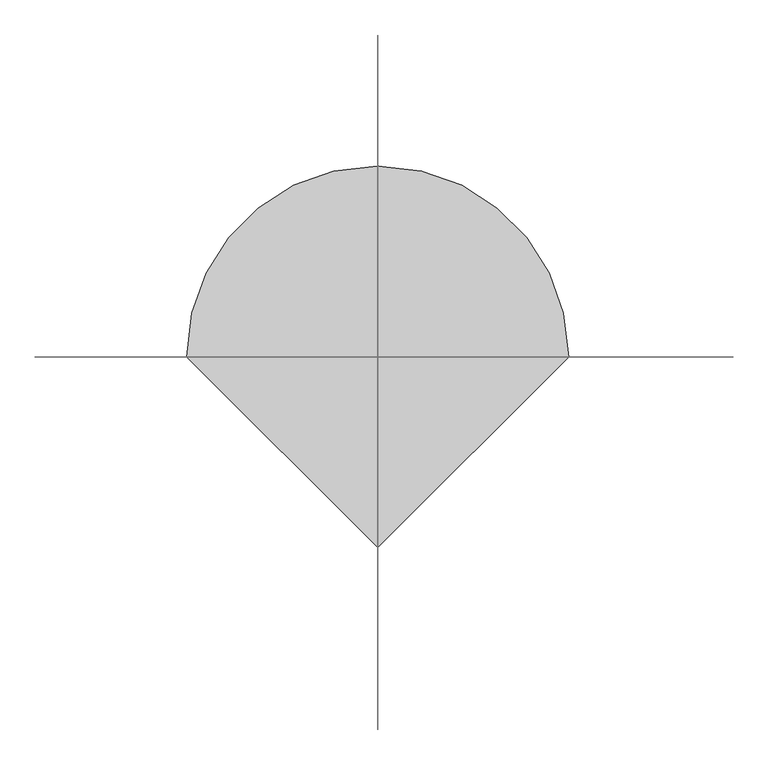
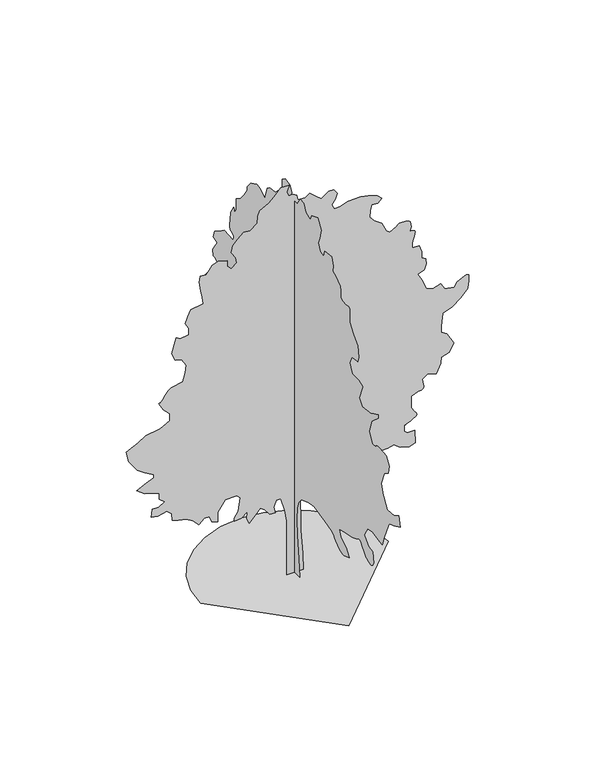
"""IFC4 building model written with IfcOpenShell, lengths in millimetres: geographic element geometry, RPC 树 - 落叶树 : 红枫 - 9 米."""

from ifc_helpers import new_model, si_unit, origin, place, context, project, spatial, triangles, source, transform, mapped, element, save


def geographic_element_35dbb388(model_context):
    return source(origin(), model_context, "Body", "Tessellation", [
        triangles([(5.8e-06, -197.3661507, 0.0129526), (5.8e-06, 197.3841547, 0.0129526), (5.8e-06, 171.0676469, 394.7628227), (5.8e-06, 144.750367, 907.9407286), (5.8e-06, 131.5926036, 1197.4234949), (5.8e-06, 171.0676469, 1342.1660408), (5.8e-06, 223.7014255, 1513.2237682), (5.8e-06, 315.8102654, 1565.8587822), (5.8e-06, 526.342909, 1684.2838211), (5.8e-06, 750.035614, 1736.9163643), (5.8e-06, 1052.6783329, 1776.3914257), (5.8e-06, 1263.2109764, 1776.3914257), (5.8e-06, 1355.318581, 1671.1238686), (5.8e-06, 1315.8435196, 1526.38125), (5.8e-06, 1421.1110767, 1486.9061886), (5.8e-06, 1592.1712749, 1579.016264), (5.8e-06, 1595.2388203, 1567.7362839), (5.8e-06, 1599.8038033, 1556.4587746), (5.8e-06, 1607.3613361, 1545.1812653), (5.8e-06, 1619.4088566, 1533.9012852), (5.8e-06, 1637.4388607, 1522.6237759), (5.8e-06, 1662.9487862, 1511.3436504), (5.8e-06, 1697.4363613, 1500.0661411), (5.8e-06, 1733.4588718, 1490.3212418), (5.8e-06, 1763.2689709, 1483.3386738), (5.8e-06, 1787.8963921, 1478.6611977), (5.8e-06, 1808.3814789, 1475.8212547), (5.8e-06, 1825.7589066, 1474.3636402), (5.8e-06, 1841.0665478, 1473.826173), (5.8e-06, 1855.3364616, 1473.7487068), (5.8e-06, 1881.6540413, 1565.8587822), (5.8e-06, 1868.4965595, 1763.2339439), (5.8e-06, 1947.446537, 1842.1839214), (5.8e-06, 2079.029203, 1855.3415485), (5.8e-06, 2184.2967602, 1750.0738461), (5.8e-06, 2434.3044651, 1671.1238686), (5.8e-06, 2500.1020477, 1473.7487068), (5.8e-06, 2618.5270866, 1486.9061886), (5.8e-06, 2723.7770576, 1644.8087597), (5.8e-06, 2723.7770576, 1776.3914257), (5.8e-06, 2750.102195, 1881.6589828), (5.8e-06, 2658.0020027, 2184.299231), (5.8e-06, 2658.0020027, 2355.3594292), (5.8e-06, 2631.6771561, 2618.5270866), (5.8e-06, 2634.7022621, 2618.6770775), (5.8e-06, 2639.0019997, 2619.7520119), (5.8e-06, 2645.8271645, 2622.677124), (5.8e-06, 2656.4520973, 2628.3520683), (5.8e-06, 2672.1523018, 2637.702079), (5.8e-06, 2694.1771202, 2651.6770981), (5.8e-06, 2723.7770576, 2671.1520721), (5.8e-06, 2752.6273315, 2695.2520546), (5.8e-06, 2772.5022812, 2722.1021599), (5.8e-06, 2784.9021057, 2751.2521248), (5.8e-06, 2791.3022964, 2782.2522675), (5.8e-06, 2793.227179, 2814.6273262), (5.8e-06, 2792.1522446, 2847.9273285), (5.8e-06, 2789.5771111, 2881.7023018), (5.8e-06, 2868.5272339, 3013.2774101), (5.8e-06, 2899.4523811, 2993.9524269), (5.8e-06, 2929.8022728, 2977.0272972), (5.8e-06, 2958.9775269, 2964.9524529), (5.8e-06, 2986.4523033, 2960.1024582), (5.8e-06, 3011.6275108, 2964.9524529), (5.8e-06, 3033.902314, 2981.8522934), (5.8e-06, 3052.7523262, 3013.2774101), (5.8e-06, 3184.3274345, 3329.0776108), (5.8e-06, 3144.8525185, 3460.6527191), (5.8e-06, 2894.8523712, 3447.5026497), (5.8e-06, 2750.102195, 3460.6527191), (5.8e-06, 2763.2522644, 3592.2528259), (5.8e-06, 2797.1272316, 3612.2280602), (5.8e-06, 2831.2521835, 3633.7029121), (5.8e-06, 2865.8024002, 3658.1778717), (5.8e-06, 2901.0522835, 3687.1528473), (5.8e-06, 2937.227401, 3722.1030396), (5.8e-06, 2974.5774467, 3764.5280663), (5.8e-06, 3013.2774101, 3815.9281265), (5.8e-06, 3049.3025368, 3866.5782326), (5.8e-06, 3079.102462, 3906.8530998), (5.8e-06, 3103.7274124, 3938.5032028), (5.8e-06, 3124.2276146, 3963.2531456), (5.8e-06, 3141.6024261, 3982.8031151), (5.8e-06, 3156.902655, 3998.9282936), (5.8e-06, 3171.1776558, 4013.3032883), (5.8e-06, 3394.8776642, 4460.7035957), (5.8e-06, 3460.6527191, 4750.1789497), (5.8e-06, 3315.9275414, 4908.0789047), (5.8e-06, 3250.1274879, 4921.2292648), (5.8e-06, 3105.3776024, 5105.4540665), (5.8e-06, 3013.2774101, 5171.2541199), (5.8e-06, 2976.8773064, 5188.2792435), (5.8e-06, 2941.9524033, 5206.0043243), (5.8e-06, 2910.027317, 5225.1043213), (5.8e-06, 2882.6022469, 5246.2791916), (5.8e-06, 2861.1773918, 5270.2294739), (5.8e-06, 2847.2023727, 5297.6045471), (5.8e-06, 2842.2023872, 5329.1543655), (5.8e-06, 2849.1272552, 5359.9042328), (5.8e-06, 2868.4522385, 5385.1544357), (5.8e-06, 2898.1524605, 5405.8043381), (5.8e-06, 2936.1274681, 5422.7544662), (5.8e-06, 2980.3273865, 5436.9541809), (5.8e-06, 3028.6523438, 5449.3045898), (5.8e-06, 3079.0524651, 5460.7294739), (5.8e-06, 3092.227533, 5605.4793594), (5.8e-06, 3026.4274796, 5710.7293304), (5.8e-06, 2921.1522194, 5855.4797974), (5.8e-06, 3079.0524651, 5894.9547134), (5.8e-06, 3026.4274796, 6052.8549591), (5.8e-06, 2855.3771645, 6158.1299286), (5.8e-06, 2658.0020027, 6302.8548157), (5.8e-06, 2486.9394791, 6289.7050369), (5.8e-06, 2329.0393787, 6276.5552582), (5.8e-06, 2302.7217991, 6381.8052292), (5.8e-06, 2381.6719219, 6434.4549225), (5.8e-06, 2395.6744102, 6437.4803192), (5.8e-06, 2409.1019337, 6441.7800568), (5.8e-06, 2421.3769112, 6448.6052216), (5.8e-06, 2431.9269939, 6459.2301544), (5.8e-06, 2440.174601, 6474.9303589), (5.8e-06, 2445.5443314, 6496.9551773), (5.8e-06, 2447.464563, 6526.5551147), (5.8e-06, 2446.3120171, 6563.455188), (5.8e-06, 2443.0918648, 6605.8805054), (5.8e-06, 2438.1420216, 6652.9305405), (5.8e-06, 2431.81203, 6703.6303528), (5.8e-06, 2424.4469273, 6757.1055771), (5.8e-06, 2416.3894249, 6812.4306885), (5.8e-06, 2407.9895016, 6868.6807434), (5.8e-06, 2302.7217991, 7052.905545), (5.8e-06, 2263.246883, 6947.6305756), (5.8e-06, 2197.4542419, 7066.0559052), (5.8e-06, 2197.4542419, 7316.0557617), (5.8e-06, 2026.3966599, 7421.3307312), (5.8e-06, 1907.9714756, 7579.2309769), (5.8e-06, 1789.5464367, 7750.2810013), (5.8e-06, 1789.5464367, 7842.406192), (5.8e-06, 1657.9612999, 8000.3064377), (5.8e-06, 1421.1110767, 8118.7317673), (5.8e-06, 1289.5285561, 8092.4066299), (5.8e-06, 1118.4684305, 7973.9813004), (5.8e-06, 1026.3608259, 8263.4566544), (5.8e-06, 934.2507505, 8329.2567078), (5.8e-06, 723.718107, 8355.5818451), (5.8e-06, 565.8179704, 8513.4820908), (5.8e-06, 460.552884, 8631.906839), (5.8e-06, 460.552884, 8816.1072235), (5.8e-06, 342.1277724, 8895.0570557), (5.8e-06, 184.2254012, 8855.5821396), (5.8e-06, 92.1178238, 8737.15681), (5.8e-06, 105.8898393, 8706.3569458), (5.8e-06, 117.7053427, 8676.8070053), (5.8e-06, 125.607849, 8649.8069092), (5.8e-06, 127.6411006, 8626.6071625), (5.8e-06, 121.8483492, 8608.4571075), (5.8e-06, 106.2730826, 8596.6316666), (5.8e-06, 78.9590612, 8592.4319229), (5.8e-06, -105.2585824, 8592.4319229), (5.8e-06, -223.6836758, 8763.4819473), (5.8e-06, -355.2677771, 8750.3321686), (5.8e-06, -421.0578383, 8592.4319229), (5.8e-06, -592.1179639, 8513.4820908), (5.8e-06, -657.9080252, 8645.0571991), (5.8e-06, -881.6006939, 8737.15681), (5.8e-06, -1026.3433125, 8539.7816483), (5.8e-06, -960.5507441, 8316.106929), (5.8e-06, -907.9182009, 8171.3564621), (5.8e-06, -973.7107693, 8013.4562164), (5.8e-06, -1105.2933626, 7987.1316605), (5.8e-06, -1157.9259058, 8131.881546), (5.8e-06, -1421.0936359, 8158.2066833), (5.8e-06, -1473.7286499, 7973.9813004), (5.8e-06, -1447.4112156, 7842.406192), (5.8e-06, -1565.8362545, 7802.9312759), (5.8e-06, -1736.8938366, 7671.3311691), (5.8e-06, -1750.0539345, 7579.2309769), (5.8e-06, -1750.0539345, 7421.3307312), (5.8e-06, -1815.8439594, 7381.8558151), (5.8e-06, -1973.7440598, 7381.8558151), (5.8e-06, -2004.5116585, 7387.106076), (5.8e-06, -2033.7816742, 7390.055896), (5.8e-06, -2060.05914, 7388.4059967), (5.8e-06, -2081.8492344, 7379.8559372), (5.8e-06, -2097.654229, 7362.1058578), (5.8e-06, -2105.9791569, 7332.8309006), (5.8e-06, -2105.3291965, 7289.7556229), (5.8e-06, -2100.4566742, 7242.4306046), (5.8e-06, -2096.9666256, 7201.3557861), (5.8e-06, -2094.6266521, 7165.4556519), (5.8e-06, -2093.2066807, 7133.6808472), (5.8e-06, -2092.476638, 7105.0308517), (5.8e-06, -2092.2092125, 7078.4307312), (5.8e-06, -2092.1717148, 7052.905545), (5.8e-06, -2223.7542355, 6868.6807434), (5.8e-06, -2394.8119629, 6697.6301376), (5.8e-06, -2434.2870243, 6447.6052826), (5.8e-06, -2407.9719154, 6329.179953), (5.8e-06, -2276.3867786, 6316.0301743), (5.8e-06, -2171.1216923, 6289.7050369), (5.8e-06, -2092.1717148, 6118.6550125), (5.8e-06, -2197.4368011, 5921.2798508), (5.8e-06, -2434.2870243, 5921.2798508), (5.8e-06, -2592.1769508, 5868.6295761), (5.8e-06, -2460.6044586, 5526.5295273), (5.8e-06, -2579.0271721, 5394.9294205), (5.8e-06, -2907.9774422, 5434.4043365), (5.8e-06, -3000.1023422, 5487.0546112), (5.8e-06, -3184.3024361, 5579.1542221), (5.8e-06, -3171.1526573, 5487.0546112), (5.8e-06, -2934.3022888, 5276.5040909), (5.8e-06, -2842.2023872, 4987.0293182), (5.8e-06, -2947.4523582, 4763.3287285), (5.8e-06, -3092.2025345, 4776.5037964), (5.8e-06, -3095.3776314, 4790.453817), (5.8e-06, -3100.752594, 4803.6288849), (5.8e-06, -3110.5025803, 4815.1787613), (5.8e-06, -3126.8024574, 4824.3037857), (5.8e-06, -3151.8526726, 4830.204007), (5.8e-06, -3187.8525101, 4832.0788925), (5.8e-06, -3236.9527107, 4829.1287819), (5.8e-06, -3473.8027885, 4802.8039352), (5.8e-06, -3592.2278275, 4631.7536201), (5.8e-06, -3552.7529114, 4447.5285278), (5.8e-06, -3408.0027351, 4342.2785568), (5.8e-06, -3289.5776962, 4052.7782043), (5.8e-06, -3342.2026817, 3868.5781105), (5.8e-06, -3394.8526657, 3802.7780571), (5.8e-06, -3526.427774, 3579.077758), (5.8e-06, -3789.6029892, 3605.4028954), (5.8e-06, -3960.6533043, 3710.6778648), (5.8e-06, -4013.2782898, 3473.827787), (5.8e-06, -3763.2781425, 3355.4027481), (5.8e-06, -3592.2278275, 3302.7527641), (5.8e-06, -3473.8027885, 3039.6025475), (5.8e-06, -3408.0027351, 2881.7023018), (5.8e-06, -3329.0526123, 2658.0020027), (5.8e-06, -3184.3024361, 2684.32714), (5.8e-06, -2960.6274261, 2723.8020561), (5.8e-06, -2776.4023338, 2684.32714), (5.8e-06, -2644.8272255, 2473.7844681), (5.8e-06, -2815.8772499, 2302.726886), (5.8e-06, -2973.7774956, 2276.4093063), (5.8e-06, -3000.1023422, 2026.3991306), (5.8e-06, -2988.6274612, 2001.2715946), (5.8e-06, -2976.0023598, 1977.6416416), (5.8e-06, -2961.0773987, 1957.0016224), (5.8e-06, -2942.7023575, 1940.8515907), (5.8e-06, -2919.7273064, 1930.6865135), (5.8e-06, -2891.0023155, 1928.001503), (5.8e-06, -2855.352166, 1934.291526), (5.8e-06, -2818.1774002, 1946.7215813), (5.8e-06, -2785.1523811, 1961.2215683), (5.8e-06, -2755.5771515, 1977.4490662), (5.8e-06, -2728.7523354, 1995.0591831), (5.8e-06, -2704.0271004, 2013.7016499), (5.8e-06, -2680.6520737, 2033.0366615), (5.8e-06, -2657.9770042, 2052.7167103), (5.8e-06, -2565.8771027, 2157.9842674), (5.8e-06, -2548.8019821, 2185.796814), (5.8e-06, -2530.801918, 2211.3067394), (5.8e-06, -2510.9769653, 2232.2143295), (5.8e-06, -2488.3795074, 2246.2168179), (5.8e-06, -2462.0994255, 2251.011874), (5.8e-06, -2431.219479, 2244.2993477), (5.8e-06, -2394.8119629, 2223.7767632), (5.8e-06, -2349.1993401, 2197.1142918), (5.8e-06, -2292.5368103, 2173.2142971), (5.8e-06, -2226.6693192, 2151.6167782), (5.8e-06, -2153.4342545, 2131.8592632), (5.8e-06, -2074.6767071, 2113.484222), (5.8e-06, -1992.236681, 2096.0291828), (5.8e-06, -1907.9540348, 2079.0341446), (5.8e-06, -1697.4189205, 2026.3991306), (5.8e-06, -1763.2114162, 1894.8164646), (5.8e-06, -1973.7440598, 1763.2339439), (5.8e-06, -2079.0116169, 1592.1737457), (5.8e-06, -1894.7940823, 1526.38125), (5.8e-06, -1869.3215092, 1526.5736801), (5.8e-06, -1843.2739712, 1527.9161854), (5.8e-06, -1816.0740326, 1531.5611664), (5.8e-06, -1787.1489086, 1538.6586983), (5.8e-06, -1755.9214542, 1550.3587109), (5.8e-06, -1721.8164139, 1567.8137501), (5.8e-06, -1684.2612934, 1592.1737457), (5.8e-06, -1645.5537724, 1620.7538326), (5.8e-06, -1608.2262543, 1650.0238483), (5.8e-06, -1572.0512821, 1679.8712997), (5.8e-06, -1536.796312, 1710.1764267), (5.8e-06, -1502.2312706, 1740.8289162), (5.8e-06, -1468.1262302, 1771.7114788), (5.8e-06, -1434.2511177, 1802.7090054), (5.8e-06, -1171.085931, 1881.6589828), (5.8e-06, -960.5507441, 1921.1340443), (5.8e-06, -750.0181005, 1973.7665874), (5.8e-06, -539.4829499, 1934.291526), (5.8e-06, -249.9999474, 1829.0239689), (5.8e-06, -171.0498791, 1723.7588825), (5.8e-06, -105.2585824, 1539.5412025), (5.8e-06, -78.9410663, 1276.3735451), (5.8e-06, -105.2585824, 921.0982103), (5.8e-06, -157.8911256, 407.9228116), (-2052.3641155, 0.0, 0.0), (-1998.1066715, 470.2653726, 0.0), (-1843.5815105, 902.1307634, 0.0), (-1601.1612785, 1283.2184761, 0.0), (-1283.2184761, 1601.1612785, 0.0), (-902.1307634, 1843.5815105, 0.0), (-470.2653726, 1998.1066715, 0.0), (8.97e-05, 2052.3641155, 0.0), (470.2653726, 1998.1066715, 0.0), (902.1307634, 1843.5815105, 0.0), (1283.2184761, 1601.1612785, 0.0), (1601.1612785, 1283.2184761, 0.0), (1843.5815105, 902.1307634, 0.0), (1998.1066715, 470.2653726, 0.0), (2052.3641155, -0.0001799, 0.0), (-0.0002691, -2052.3641155, 0.0), (196.7396627, -0.0002249, 0.0051811), (-167.0323917, -0.0002249, 0.0051811), (-167.0323917, -0.0001889, 673.6580086), (-167.0323917, -0.0001619, 1023.9583563), (-167.0323917, -0.0001529, 1252.9985184), (-207.4516724, -0.0001349, 1508.988707), (-301.7627399, -0.0001169, 1805.3940159), (-396.0753153, -0.0001169, 1805.3940159), (-449.967847, -0.0001259, 1657.1912888), (-423.0203276, -0.0001349, 1522.4612858), (-544.2779334, -0.0001349, 1535.9337193), (-652.0630331, -0.0001259, 1670.6638676), (-746.3755903, -0.0001259, 1738.0289417), (-854.1581829, -0.0001259, 1616.7713722), (-988.8883312, -0.0001349, 1482.0412239), (-1042.7808266, -0.0001349, 1603.2987934), (-1029.3083204, -0.0001259, 1764.9764248), (-1164.0384687, -0.0001259, 1657.1912888), (-1312.243594, -0.0001259, 1643.7188553), (-1312.243594, -0.0001259, 1711.0839294), (-1231.4034702, -0.0001169, 1845.8139324), (-1190.9859518, -9.89e-05, 2142.2217121), (-1258.3509533, -9.89e-05, 2209.5867863), (-1514.3386711, -9.89e-05, 2209.5867863), (-1676.0138317, -0.0001079, 1980.5440807), (-1676.0138317, -0.0001169, 1886.2339943), (-1676.0138317, -0.0001259, 1751.503846), (-1810.7464508, -0.0001169, 1805.3940159), (-1864.6389462, -0.0001079, 1940.126635), (-1972.4216114, -0.0001079, 1940.126635), (-2093.6791809, -0.0001169, 1832.3414989), (-2228.4093292, -0.0001079, 1967.0716473), (-2363.1419483, -0.0001079, 2047.9091549), (-2538.3020416, -9.89e-05, 2088.3292168), (-2673.0272484, -9.89e-05, 2142.2217121), (-2686.502298, -8.99e-05, 2290.4242939), (-2794.2771149, -8.1e-05, 2384.7369965), (-2996.3772789, -8.99e-05, 2344.3169346), (-3131.1024857, -8.1e-05, 2371.2644176), (-3117.6274361, -7.2e-05, 2546.4021286), (-2969.4274704, -7.2e-05, 2546.4021286), (-2834.7022636, -7.2e-05, 2627.2521355), (-2955.9524208, -6.3e-05, 2721.5521935), (-2955.9524208, -5.4e-05, 2856.3023987), (-3090.6776276, -5.4e-05, 2910.1773079), (-3279.302742, -5.4e-05, 2964.0775063), (-3454.4528069, -4.5e-05, 3098.8024223), (-3238.8775932, -3.6e-05, 3193.1274788), (-3077.202578, -3.6e-05, 3260.4777283), (-3077.202578, -2.7e-05, 3327.8526855), (-3279.302742, -1.8e-05, 3449.1028427), (-3440.9777573, -1.8e-05, 3570.3779984), (-3629.6028717, 0.0, 3826.3530716), (-3683.5030701, 1.8e-05, 4068.8783844), (-3575.7279625, 1.8e-05, 4122.7532936), (-3427.5027077, 2.7e-05, 4190.1282509), (-3252.3526428, 2.7e-05, 4297.9033585), (-2942.4773712, 3.6e-05, 4351.8035568), (-2726.9021576, 3.6e-05, 4459.5786644), (-2726.9021576, 4.5e-05, 4621.2536797), (-2875.1274124, 5.4e-05, 4769.4789345), (-2969.4274704, 7.2e-05, 4944.6289993), (-2960.6274261, 7.2e-05, 4942.0541565), (-2951.0024323, 7.2e-05, 4941.5041901), (-2939.7272484, 7.2e-05, 4944.978978), (-2925.9775063, 7.2e-05, 4954.4289825), (-2908.9273842, 7.2e-05, 4971.9040787), (-2887.7772217, 7.2e-05, 4999.4041443), (-2861.6523628, 7.2e-05, 5038.9290573), (-2833.9523094, 7.2e-05, 5080.8038269), (-2808.3771263, 8.1e-05, 5114.904071), (-2784.5771255, 8.1e-05, 5142.5041306), (-2762.17733, 8.1e-05, 5164.9289246), (-2740.8521782, 8.1e-05, 5183.4789551), (-2720.2272743, 8.1e-05, 5199.4291443), (-2699.9770569, 8.1e-05, 5214.0794128), (-2443.9796013, 8.99e-05, 5267.9790298), (-2390.0869606, 9.89e-05, 5456.6041443), (-2363.1419483, 0.0001079, 5618.2797409), (-2470.9270844, 0.0001169, 5779.9547562), (-2605.6520004, 0.0001169, 5820.3546158), (-2686.502298, 0.0001349, 5995.5049713), (-2632.6020996, 0.0001439, 6184.1300858), (-2592.1769508, 0.0001529, 6332.3303421), (-2497.8719513, 0.0001439, 6278.4551422), (-2309.2493076, 0.0001529, 6305.4052414), (-2309.2493076, 0.0001619, 6453.6054977), (-2390.0869606, 0.0001619, 6588.3304138), (-2336.1943199, 0.0001709, 6736.5306702), (-2268.8293911, 0.0001799, 6871.2555862), (-1999.3690945, 0.0001889, 6911.6804443), (-2012.8416733, 0.0001979, 7073.3554596), (-2053.2615898, 0.0002069, 7221.5557159), (-2080.2067474, 0.0002159, 7437.1309296), (-2066.7341686, 0.0002249, 7571.8558456), (-1932.0040203, 0.0002249, 7558.3810867), (-1864.6389462, 0.0002249, 7639.2313843), (-1797.2740173, 0.0002339, 7733.5314423), (-1662.5413982, 0.0002339, 7773.9563004), (-1473.9187546, 0.0002339, 7720.056102), (-1473.9187546, 0.0002249, 7598.8059448), (-1379.6086681, 0.0002249, 7504.5058868), (-1258.3509533, 0.0002249, 7598.8059448), (-1285.2959656, 0.0002339, 7733.5314423), (-1379.6086681, 0.0002429, 7881.7311172), (-1352.6610397, 0.0002519, 8029.9563721), (-1244.876049, 0.0002609, 8137.7317703), (-1110.1459007, 0.0002698, 8258.9819275), (-961.9432463, 0.0002609, 8245.5065872), (-813.7406645, 0.0002698, 8366.7817429), (-800.2656149, 0.0002788, 8514.9819992), (-759.8480965, 0.0002878, 8636.2321564), (-557.7504395, 0.0002968, 8730.5572128), (-436.49287, 0.0002968, 8838.3320297), (-301.7627399, 0.0003058, 9000.007045), (-113.1403415, 0.0003058, 9000.007045), (-167.0323917, 0.0002968, 8851.80737), (-126.6133563, 0.0002968, 8757.4823135), (-32.3020254, 0.0002968, 8757.4823135), (48.5362907, 0.0002878, 8703.6071136), (75.4823112, 0.0002878, 8595.8067169), (237.1586891, 0.0002878, 8582.331958), (331.4702834, 0.0002878, 8649.7069153), (466.2003591, 0.0002788, 8541.9320984), (587.4579649, 0.0002788, 8434.1317017), (749.1355963, 0.0002788, 8555.4068573), (856.9206596, 0.0002788, 8555.4068573), (937.7582399, 0.0002788, 8447.6070419), (897.3382507, 0.0002698, 8312.8815445), (816.5006704, 0.0002609, 8218.5814865), (870.3932384, 0.0002609, 8110.7816711), (991.650808, 0.0002609, 8110.7816711), (1180.2734516, 0.0002609, 8178.1566284), (1449.7336029, 0.0002609, 8178.1566284), (1611.4112343, 0.0002609, 8151.2065292), (1813.5064568, 0.0002519, 8083.831572), (1907.819014, 0.0002519, 7989.531514), (1826.9790356, 0.0002429, 7895.2064575), (1692.2488873, 0.0002429, 7908.6812164), (1665.303875, 0.0002339, 7787.4310593), (1651.8288254, 0.0002249, 7639.2313843), (1746.1413826, 0.0002249, 7517.9812271), (1907.819014, 0.0002159, 7410.1808304), (2015.6016792, 0.0001979, 7194.6056168), (2082.9667534, 0.0001979, 7140.7309982), (2244.6443848, 0.0002069, 7221.5557159), (2247.8267487, 0.0002069, 7233.0305969), (2252.7742664, 0.0002069, 7244.0310883), (2261.259359, 0.0002069, 7254.0810562), (2275.0468895, 0.0002069, 7262.7311096), (2295.9043373, 0.0002069, 7269.4806976), (2325.5993271, 0.0002069, 7273.8810104), (2365.9019543, 0.0002069, 7275.4559143), (2407.7743984, 0.0002069, 7273.8810104), (2441.8695557, 0.0002069, 7269.4806976), (2469.4844398, 0.0002069, 7262.7311096), (2491.9121407, 0.0002069, 7254.0810562), (2510.4519974, 0.0002069, 7244.0310883), (2526.4018959, 0.0002069, 7233.0305969), (2541.0521645, 0.0002069, 7221.5557159), (2554.5269234, 0.0001979, 7100.3055588), (2527.5771149, 0.0001889, 7006.0055008), (2558.951944, 0.0001889, 7005.5555283), (2588.1021996, 0.0001889, 7002.5307129), (2612.7771469, 0.0001889, 6994.330632), (2630.7272141, 0.0001889, 6978.3304459), (2639.7272461, 0.0001889, 6951.9808914), (2637.5270897, 0.0001889, 6912.6553848), (2621.9021713, 0.0001799, 6857.7808273), (2602.3272034, 0.0001799, 6799.7802979), (2589.127137, 0.0001799, 6751.6553284), (2581.2270378, 0.0001709, 6711.7804367), (2577.5769699, 0.0001709, 6678.5051422), (2577.1019989, 0.0001709, 6650.2051254), (2578.7521889, 0.0001709, 6625.1804901), (2581.4770226, 0.0001709, 6601.8051727), (2729.6772789, 0.0001709, 6601.8051727), (2783.5771866, 0.0001529, 6440.1301575), (2783.5771866, 0.0001529, 6305.4052414), (2877.8772446, 0.0001439, 6251.505043), (2891.3522942, 0.0001349, 6130.2548859), (2837.4523865, 0.0001349, 6008.9797302), (2702.7271797, 0.0001259, 5955.1045303), (2797.0522362, 0.0001169, 5779.9547562), (2891.3522942, 0.0001079, 5564.3795425), (3026.0775009, 9.89e-05, 5497.0045853), (3201.2275658, 0.0001079, 5550.9042023), (3295.5526222, 9.89e-05, 5402.7045273), (3497.6277878, 8.99e-05, 5375.7544281), (3565.0027451, 9.89e-05, 5470.0544861), (3619.4779083, 9.89e-05, 5501.3043228), (3671.7279167, 9.89e-05, 5529.3293564), (3719.5029076, 0.0001079, 5551.0291946), (3760.5280197, 0.0001079, 5563.1546173), (3792.6280952, 0.0001079, 5562.5796524), (3813.5279823, 0.0001079, 5546.0794968), (3821.0031075, 9.89e-05, 5510.4793442), (3820.2031563, 9.89e-05, 5465.8541611), (3818.0029999, 9.89e-05, 5424.0793854), (3814.6282059, 8.99e-05, 5384.6294678), (3810.3031792, 8.99e-05, 5347.0794342), (3805.2781952, 8.99e-05, 5310.9543137), (3799.7779495, 8.99e-05, 5275.7541367), (3794.0530083, 8.99e-05, 5241.029512), (3645.8530426, 7.2e-05, 5079.3539154), (3457.2279282, 6.3e-05, 4931.1542404), (3241.6527145, 6.3e-05, 4863.7789925), (3214.7026154, 4.5e-05, 4567.3787704), (3214.7026154, 3.6e-05, 4432.6285652), (3335.9527725, 3.6e-05, 4351.8035568), (3484.1777367, 1.8e-05, 4095.8031944), (3389.8526802, 9e-06, 3907.2030785), (3214.7026154, 0.0, 3853.3031708), (3201.2275658, -9e-06, 3718.577964), (3106.9275078, -1.8e-05, 3503.0027504), (2918.3023933, -1.8e-05, 3570.3779984), (2801.5522522, -1.8e-05, 3481.1779198), (2800.6773056, -1.8e-05, 3482.6028328), (2800.3023285, -1.8e-05, 3481.8278801), (2800.9522888, -1.8e-05, 3476.6779037), (2803.1271561, -1.8e-05, 3464.9277489), (2807.3521889, -1.8e-05, 3444.4028389), (2814.1523552, -2.7e-05, 3412.9277252), (2823.9773369, -2.7e-05, 3368.2778343), (2830.0272583, -2.7e-05, 3322.9776924), (2826.1772026, -2.7e-05, 3289.7026886), (2814.0773598, -3.6e-05, 3266.4526543), (2795.4023369, -3.6e-05, 3251.202713), (2771.752327, -3.6e-05, 3241.9776947), (2744.8022278, -3.6e-05, 3236.7527229), (2716.2022293, -3.6e-05, 3233.5276291), (2554.5269234, -3.6e-05, 3179.6524292), (2554.5269234, -5.4e-05, 2910.1773079), (2635.3522224, -6.3e-05, 2788.9271507), (2655.0521828, -6.3e-05, 2771.5273407), (2671.5520477, -6.3e-05, 2753.652269), (2681.6773018, -6.3e-05, 2734.8272552), (2682.2522667, -6.3e-05, 2714.602327), (2670.1271347, -6.3e-05, 2692.5022224), (2642.0771027, -7.2e-05, 2668.0272629), (2594.9520721, -7.2e-05, 2640.7271851), (2543.4770164, -7.2e-05, 2615.3769882), (2503.35214, -7.2e-05, 2596.4269821), (2472.6243645, -7.2e-05, 2582.7519447), (2449.4496162, -7.2e-05, 2573.3269386), (2431.9319355, -7.2e-05, 2567.0770294), (2418.1845188, -7.2e-05, 2562.9519905), (2406.3218708, -7.2e-05, 2559.8771782), (2406.3218708, -8.1e-05, 2425.156913), (2473.6870903, -8.99e-05, 2357.7893681), (2635.3522224, -8.99e-05, 2357.7893681), (2648.827272, -9.89e-05, 2074.856638), (2514.1020653, -0.0001079, 2020.9641426), (2312.0093136, -9.89e-05, 2088.3292168), (2177.2793106, -9.89e-05, 2182.641774), (2042.5491623, -9.89e-05, 2155.6942909), (1800.0340233, -9.89e-05, 2142.2217121), (1651.8288254, -9.89e-05, 2101.8016502), (1638.3563919, -0.0001169, 1913.1790066), (1490.1536648, -0.0001169, 1899.7065731), (1301.5310211, -0.0001169, 1913.1790066), (1220.6910427, -0.0001169, 1791.9214371), (937.7582399, -0.0001259, 1751.503846), (722.1881132, -0.0001169, 1805.3940159), (722.1881132, -0.0001349, 1589.8262146), (547.0404465, -0.0001349, 1603.2987934), (493.1479148, -0.0001259, 1711.0839294), (398.8353212, -0.0001259, 1670.6638676), (291.0502397, -0.0001259, 1670.6638676), (250.6327031, -0.0001169, 1791.9214371), (142.8473672, -0.0001259, 1670.6638676), (129.3743524, -0.0001349, 1522.4612858), (142.8473672, -0.0001529, 1293.4185802), (142.8473672, -0.0001709, 916.1732203), (183.2666479, -0.0002069, 377.2503016)], [[131, 130, 132], [209, 208, 210], [210, 208, 211], [208, 207, 211], [231, 230, 232], [232, 230, 233], [277, 276, 278], [230, 229, 233], [233, 229, 234], [1, 302, 2], [2, 302, 3], [3, 302, 4], [302, 301, 4], [4, 301, 5], [301, 300, 5], [5, 300, 6], [300, 299, 6], [6, 299, 7], [109, 108, 110], [204, 203, 205], [207, 206, 211], [211, 206, 212], [110, 108, 111], [203, 202, 205], [14, 13, 15], [15, 13, 16], [237, 236, 238], [172, 171, 173], [171, 170, 173], [173, 170, 174], [37, 36, 38], [38, 36, 39], [39, 36, 40], [276, 275, 278], [278, 275, 279], [279, 275, 280], [280, 275, 281], [281, 275, 282], [282, 275, 283], [283, 275, 284], [284, 275, 285], [285, 275, 286], [286, 275, 287], [287, 275, 288], [288, 275, 289], [289, 275, 290], [275, 274, 290], [290, 274, 291], [291, 274, 292], [68, 67, 69], [67, 66, 69], [165, 164, 166], [166, 164, 167], [164, 163, 167], [167, 163, 168], [243, 242, 244], [30, 29, 31], [105, 104, 106], [198, 197, 199], [29, 28, 31], [299, 298, 7], [69, 66, 70], [66, 65, 70], [65, 64, 70], [64, 63, 70], [63, 62, 70], [62, 61, 70], [61, 60, 70], [60, 59, 70], [28, 27, 31], [151, 150, 152], [161, 160, 162], [160, 159, 162], [197, 196, 199], [196, 195, 199], [199, 195, 200], [27, 26, 31], [134, 133, 135], [244, 242, 245], [245, 242, 246], [246, 242, 247], [247, 242, 248], [248, 242, 249], [249, 242, 250], [250, 242, 251], [251, 242, 252], [252, 242, 253], [253, 242, 254], [254, 242, 255], [255, 242, 256], [256, 242, 257], [257, 242, 258], [258, 242, 259], [242, 241, 259], [259, 241, 260], [260, 241, 261], [261, 241, 262], [262, 241, 263], [263, 241, 264], [7, 298, 8], [292, 274, 293], [148, 147, 149], [149, 147, 150], [150, 147, 152], [152, 147, 153], [153, 147, 154], [154, 147, 155], [155, 147, 156], [40, 36, 41], [41, 36, 42], [36, 35, 42], [35, 34, 42], [42, 34, 43], [87, 86, 88], [88, 86, 89], [43, 34, 44], [106, 104, 107], [104, 103, 107], [103, 102, 107], [26, 25, 31], [31, 25, 32], [25, 24, 32], [24, 23, 32], [23, 22, 32], [22, 21, 32], [21, 20, 32], [20, 19, 32], [19, 18, 32], [18, 17, 32], [17, 16, 32], [16, 13, 32], [13, 12, 32], [107, 102, 108], [102, 101, 108], [130, 129, 132], [147, 146, 156], [101, 100, 108], [238, 236, 239], [156, 146, 157], [222, 221, 223], [223, 221, 224], [224, 221, 225], [221, 220, 225], [220, 219, 225], [219, 218, 225], [218, 217, 225], [217, 216, 225], [216, 215, 225], [215, 214, 225], [214, 213, 225], [225, 213, 226], [34, 33, 44], [236, 235, 239], [8, 298, 9], [298, 297, 9], [32, 12, 33], [59, 58, 70], [176, 175, 177], [86, 85, 89], [89, 85, 90], [90, 85, 91], [91, 85, 92], [85, 84, 92], [92, 84, 93], [84, 83, 93], [83, 82, 93], [93, 82, 94], [82, 81, 94], [81, 80, 94], [94, 80, 95], [80, 79, 95], [33, 12, 44], [79, 78, 95], [78, 77, 95], [77, 76, 95], [76, 75, 95], [75, 74, 95], [74, 73, 95], [73, 72, 95], [72, 71, 95], [95, 71, 96], [111, 108, 112], [112, 108, 113], [108, 100, 113], [113, 100, 114], [100, 99, 114], [99, 98, 114], [195, 194, 200], [129, 128, 132], [138, 137, 139], [177, 175, 178], [175, 174, 178], [264, 241, 265], [140, 139, 141], [141, 139, 142], [139, 137, 142], [234, 229, 235], [235, 229, 239], [229, 228, 239], [228, 227, 239], [239, 227, 240], [227, 226, 240], [226, 213, 240], [137, 136, 142], [143, 142, 144], [144, 142, 145], [146, 145, 157], [128, 127, 132], [12, 11, 44], [174, 170, 178], [200, 194, 201], [96, 71, 97], [157, 145, 158], [170, 169, 178], [213, 212, 240], [212, 206, 240], [206, 205, 240], [240, 205, 241], [241, 205, 265], [265, 205, 266], [266, 205, 267], [267, 205, 268], [268, 205, 269], [269, 205, 270], [270, 205, 271], [271, 205, 272], [272, 205, 273], [273, 205, 274], [274, 205, 293], [293, 205, 294], [294, 205, 295], [205, 202, 295], [295, 202, 296], [202, 201, 296], [296, 201, 297], [297, 201, 9], [9, 201, 10], [10, 201, 11], [11, 201, 44], [201, 194, 44], [194, 193, 44], [44, 193, 45], [45, 193, 46], [46, 193, 47], [47, 193, 48], [48, 193, 49], [49, 193, 50], [50, 193, 51], [51, 193, 52], [52, 193, 53], [53, 193, 54], [54, 193, 55], [55, 193, 56], [56, 193, 57], [57, 193, 58], [58, 193, 70], [70, 193, 71], [71, 193, 97], [97, 193, 98], [98, 193, 114], [114, 193, 115], [193, 192, 115], [192, 191, 115], [191, 190, 115], [190, 189, 115], [189, 188, 115], [188, 187, 115], [187, 186, 115], [186, 185, 115], [185, 184, 115], [184, 183, 115], [183, 182, 115], [182, 181, 115], [181, 180, 115], [180, 179, 115], [179, 178, 115], [178, 169, 115], [169, 168, 115], [168, 163, 115], [163, 162, 115], [162, 159, 115], [159, 158, 115], [158, 145, 115], [145, 142, 115], [142, 136, 115], [136, 135, 115], [135, 133, 115], [133, 132, 115], [132, 127, 115], [127, 126, 115], [115, 126, 116], [126, 125, 116], [125, 124, 116], [124, 123, 116], [123, 122, 116], [122, 121, 116], [116, 121, 117], [121, 120, 117], [117, 120, 118], [120, 119, 118], [318, 317, 303], [317, 316, 303], [303, 316, 304], [316, 315, 304], [304, 315, 305], [305, 315, 306], [315, 314, 306], [314, 313, 306], [306, 313, 307], [307, 313, 308], [308, 313, 309], [309, 313, 310], [310, 313, 311], [311, 313, 312], [380, 379, 381], [381, 379, 382], [365, 364, 366], [345, 344, 346], [333, 332, 334], [434, 433, 435], [328, 327, 329], [402, 401, 403], [329, 327, 330], [346, 344, 347], [344, 343, 347], [334, 332, 335], [433, 432, 435], [382, 379, 383], [535, 534, 536], [337, 336, 338], [338, 336, 339], [336, 335, 339], [583, 582, 584], [584, 582, 585], [319, 593, 320], [320, 593, 321], [593, 592, 321], [321, 592, 322], [592, 591, 322], [322, 591, 323], [413, 412, 414], [332, 331, 335], [323, 591, 324], [591, 590, 324], [569, 568, 570], [570, 568, 571], [571, 568, 572], [572, 568, 573], [568, 567, 573], [349, 348, 350], [533, 532, 534], [455, 454, 456], [456, 454, 457], [454, 453, 457], [358, 357, 359], [357, 356, 359], [356, 355, 359], [359, 355, 360], [364, 363, 366], [366, 363, 367], [590, 589, 324], [324, 589, 325], [577, 576, 578], [372, 371, 373], [339, 335, 340], [383, 379, 384], [505, 504, 506], [441, 440, 442], [418, 417, 419], [327, 326, 330], [495, 494, 496], [587, 586, 588], [363, 362, 367], [435, 432, 436], [589, 588, 325], [330, 326, 331], [353, 352, 354], [586, 585, 588], [453, 452, 457], [335, 331, 340], [384, 379, 385], [417, 416, 419], [416, 415, 419], [412, 411, 414], [532, 531, 534], [529, 528, 530], [530, 528, 531], [528, 527, 531], [432, 431, 436], [415, 414, 419], [414, 411, 419], [419, 411, 420], [411, 410, 420], [410, 409, 420], [578, 576, 579], [373, 371, 374], [371, 370, 374], [374, 370, 375], [370, 369, 375], [375, 369, 376], [369, 368, 376], [376, 368, 377], [408, 407, 409], [457, 452, 458], [452, 451, 458], [451, 450, 458], [458, 450, 459], [498, 497, 499], [499, 497, 500], [500, 497, 501], [446, 445, 447], [445, 444, 447], [444, 443, 447], [447, 443, 448], [331, 326, 340], [361, 360, 362], [496, 494, 497], [406, 405, 407], [407, 405, 409], [399, 398, 400], [400, 398, 401], [401, 398, 403], [403, 398, 404], [398, 397, 404], [580, 579, 581], [497, 494, 501], [426, 425, 427], [385, 379, 386], [430, 429, 431], [531, 527, 534], [478, 477, 479], [477, 476, 479], [476, 475, 479], [475, 474, 479], [474, 473, 479], [479, 473, 480], [473, 472, 480], [472, 471, 480], [471, 470, 480], [470, 469, 480], [469, 468, 480], [468, 467, 480], [467, 466, 480], [466, 465, 480], [465, 464, 480], [464, 463, 480], [567, 566, 573], [573, 566, 574], [574, 566, 575], [429, 428, 431], [431, 428, 436], [423, 422, 424], [424, 422, 425], [425, 422, 427], [422, 421, 427], [343, 342, 347], [438, 437, 439], [437, 436, 439], [436, 428, 439], [379, 378, 386], [386, 378, 387], [387, 378, 388], [388, 378, 389], [389, 378, 390], [390, 378, 391], [391, 378, 392], [392, 378, 393], [393, 378, 394], [394, 378, 395], [585, 582, 588], [352, 351, 354], [514, 513, 515], [513, 512, 515], [512, 511, 515], [515, 511, 516], [511, 510, 516], [516, 510, 517], [510, 509, 517], [517, 509, 518], [518, 509, 519], [509, 508, 519], [508, 507, 519], [519, 507, 520], [520, 507, 521], [521, 507, 522], [522, 507, 523], [523, 507, 524], [507, 506, 524], [524, 506, 525], [506, 504, 525], [504, 503, 525], [355, 354, 360], [581, 579, 582], [347, 342, 348], [348, 342, 350], [350, 342, 351], [351, 342, 354], [354, 342, 360], [360, 342, 362], [362, 342, 367], [367, 342, 368], [368, 342, 377], [342, 341, 377], [450, 449, 459], [534, 527, 536], [405, 404, 409], [377, 341, 378], [378, 341, 395], [395, 341, 396], [525, 503, 526], [442, 440, 443], [556, 555, 557], [555, 554, 557], [557, 554, 558], [554, 553, 558], [553, 552, 558], [558, 552, 559], [552, 551, 559], [559, 551, 560], [560, 551, 561], [561, 551, 562], [562, 551, 563], [563, 551, 564], [564, 551, 565], [565, 551, 566], [566, 551, 575], [551, 550, 575], [575, 550, 576], [461, 460, 462], [484, 483, 485], [483, 482, 485], [485, 482, 486], [482, 481, 486], [486, 481, 487], [481, 480, 487], [487, 480, 488], [480, 463, 488], [488, 463, 489], [489, 463, 490], [490, 463, 491], [491, 463, 492], [492, 463, 493], [493, 463, 494], [494, 463, 501], [396, 341, 397], [341, 340, 397], [340, 326, 397], [326, 325, 397], [325, 588, 397], [588, 582, 397], [582, 579, 397], [579, 576, 397], [576, 550, 397], [397, 550, 404], [404, 550, 409], [409, 550, 420], [420, 550, 421], [550, 549, 421], [421, 549, 427], [427, 549, 428], [428, 549, 439], [439, 549, 440], [440, 549, 443], [443, 549, 448], [448, 549, 449], [449, 549, 459], [459, 549, 460], [460, 549, 462], [462, 549, 463], [463, 549, 501], [501, 549, 502], [502, 549, 503], [549, 548, 503], [548, 547, 503], [527, 526, 536], [526, 503, 536], [545, 544, 546], [544, 543, 546], [546, 543, 547], [543, 542, 547], [542, 541, 547], [541, 540, 547], [536, 503, 537], [503, 547, 537], [537, 547, 538], [538, 547, 539], [547, 540, 539]], closed=False),
    ])


if __name__ == "__main__":
    model = new_model("IFC4")
    model_context = context("Model", 3, world=origin())
    ifc_project = project(units=[si_unit("LENGTHUNIT", "METRE", prefix="MILLI")], contexts=[model_context])
    site = spatial("IfcSite", under=ifc_project)
    building = spatial("IfcBuilding", under=site)
    placement = place(None, origin())
    geographic_element_shape = geographic_element_35dbb388(model_context)
    element("IfcGeographicElement", 1, ObjectType="RPC 树 - 落叶树 : 红枫 - 9 米", at=placement, inside=building, context=model_context, shape_type="MappedRepresentation", body=[
        mapped(geographic_element_shape, transform((0.0, 0.0, 0.0), x_axis=(1.0, 0.0, 0.0), y_axis=(0.0, 1.0, 0.0), z_axis=(0.0, 0.0, 1.0))),
    ])
    save(model, "model.ifc")
